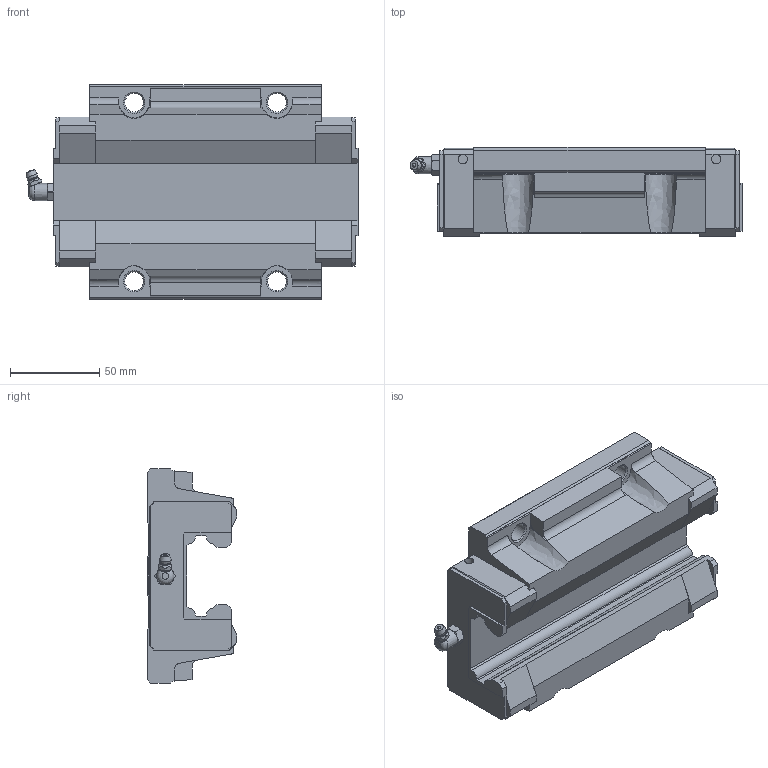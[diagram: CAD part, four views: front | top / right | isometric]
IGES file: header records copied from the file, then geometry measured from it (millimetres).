
Start section: Data from Parasolid IGES Translator 26.0.171, Copyright(c) 2006 Siemens PLM Software. All Rights Reserved.
Global section: file name: HSR45LC1SS(GK) BLOCK(1B-PT1_8).igs; native system: By Siemens PLM Incorporated; preprocessor: XPlus GENERIC/IGES 26.0.171; author: Noname; organization: Noname; date: 20240521.045859; units: millimetre
Bounding box: 186 x 50 x 120 mm (x, y, z)
Surface area: 74067.1 mm2 (no closed solid volume)
Topology: 0 solids, 0 shells, 232 faces, 1305 edges, 1282 vertices
Faces by surface type: extrusion 171, revolution 61
